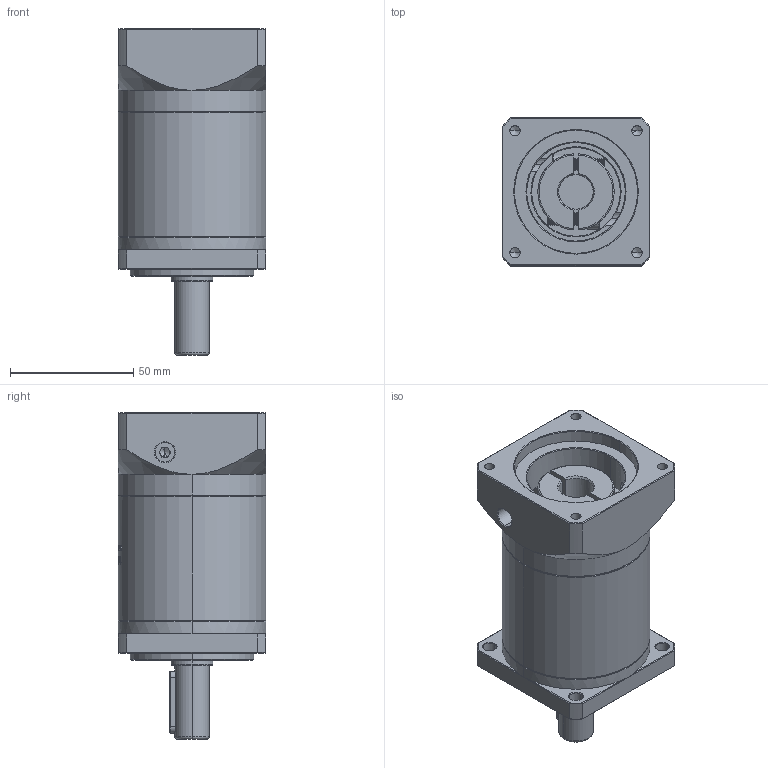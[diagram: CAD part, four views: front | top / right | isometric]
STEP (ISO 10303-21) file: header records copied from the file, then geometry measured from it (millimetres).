
FILE_DESCRIPTION (( 'STEP AP214' ), '1' );
FILE_NAME ('ZF60-D14-L2-14-50-70-M5.STEP', '2022-04-17T11:50:59', ( '' ), ( 'Microsoft' ), 'SwSTEP 2.0', 'SolidWorks 2016', '' );
FILE_SCHEMA (( 'AUTOMOTIVE_DESIGN' ));
Length unit declared in the file: millimetre
Products named in the file (1): ZF60-D14-L2-14-50-70-M5
Bounding box: 60 x 60 x 132.5 mm (x, y, z)
Volume: 270180.8 mm3; surface area: 46864.4 mm2
Topology: 6 solids, 6 shells, 1516 faces, 4074 edges, 2634 vertices
Faces by surface type: plane 736, bspline 287, cylinder 239, cone 234, torus 20
Entity records: 79562 total; most frequent: CARTESIAN_POINT 27913, ORIENTED_EDGE 8120, DIRECTION 6141, EDGE_CURVE 4060, VERTEX_POINT 2634, VECTOR 2119, LINE 2119, AXIS2_PLACEMENT_3D 2011
